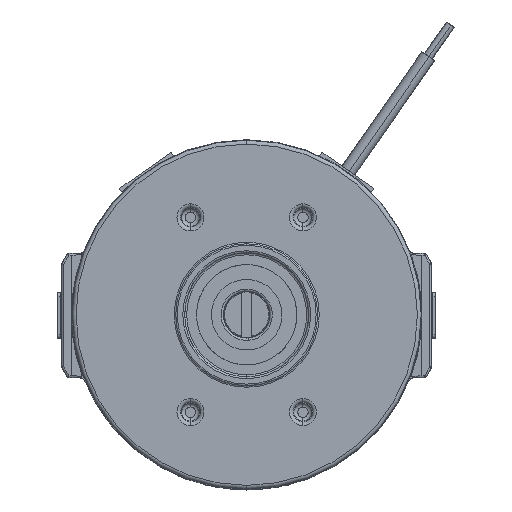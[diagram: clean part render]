
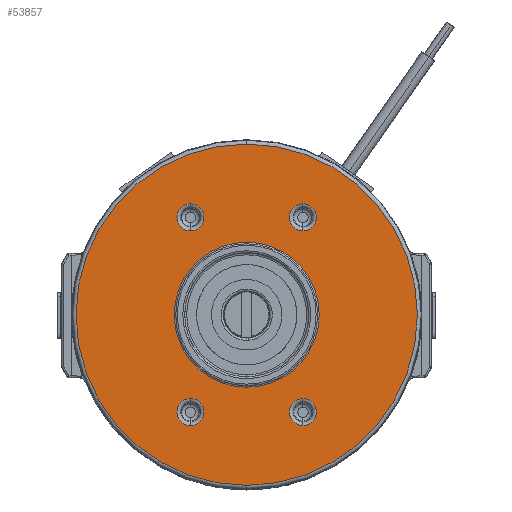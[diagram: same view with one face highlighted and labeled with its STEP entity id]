
A CAD part, top view. The second image highlights one B-rep face of the part: STEP entity #53857.
In plain terms, the highlighted planar face has unit normal (0, 0, 1).
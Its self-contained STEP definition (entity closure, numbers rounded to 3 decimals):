
#706 = VERTEX_POINT ( 'NONE', #2631 ) ;
#2194 = VERTEX_POINT ( 'NONE', #78104 ) ;
#2504 = AXIS2_PLACEMENT_3D ( 'NONE', #71942, #11484, #58650 ) ;
#2631 = CARTESIAN_POINT ( 'NONE',  ( 14.5, -21.632, 9.15 ) ) ;
#3665 = EDGE_CURVE ( 'NONE', #22772, #30019, #70294, .T. ) ;
#4205 = AXIS2_PLACEMENT_3D ( 'NONE', #17932, #70507, #57673 ) ;
#6045 = AXIS2_PLACEMENT_3D ( 'NONE', #20177, #73176, #73590 ) ;
#7078 = CARTESIAN_POINT ( 'NONE',  ( -14.5, 21.632, 9.15 ) ) ;
#8705 = VERTEX_POINT ( 'NONE', #70805 ) ;
#10449 = EDGE_CURVE ( 'NONE', #8705, #20519, #17927, .T. ) ;
#11123 = VERTEX_POINT ( 'NONE', #37116 ) ;
#11484 = DIRECTION ( 'NONE',  ( 0., 0., -1. ) ) ;
#12710 = ORIENTED_EDGE ( 'NONE', *, *, #70879, .T. ) ;
#12905 = EDGE_LOOP ( 'NONE', ( #31468, #29316 ) ) ;
#12938 = ORIENTED_EDGE ( 'NONE', *, *, #10449, .T. ) ;
#14349 = DIRECTION ( 'NONE',  ( 0., 0., -1. ) ) ;
#17023 = CARTESIAN_POINT ( 'NONE',  ( 0., 0., 9.15 ) ) ;
#17159 = AXIS2_PLACEMENT_3D ( 'NONE', #67773, #14349, #41226 ) ;
#17927 = CIRCLE ( 'NONE', #34906, 3.483 ) ;
#17932 = CARTESIAN_POINT ( 'NONE',  ( 0., 0., 9.15 ) ) ;
#18843 = AXIS2_PLACEMENT_3D ( 'NONE', #66890, #61520, #39505 ) ;
#20177 = CARTESIAN_POINT ( 'NONE',  ( 14.5, -25.115, 9.15 ) ) ;
#20422 = AXIS2_PLACEMENT_3D ( 'NONE', #62376, #55722, #22191 ) ;
#20519 = VERTEX_POINT ( 'NONE', #29677 ) ;
#20570 = EDGE_CURVE ( 'NONE', #75546, #77408, #79689, .T. ) ;
#22191 = DIRECTION ( 'NONE',  ( 0., 1., 0. ) ) ;
#22772 = VERTEX_POINT ( 'NONE', #7078 ) ;
#23566 = VERTEX_POINT ( 'NONE', #82964 ) ;
#24772 = DIRECTION ( 'NONE',  ( 0., 1., 0. ) ) ;
#24906 = CARTESIAN_POINT ( 'NONE',  ( 14.5, 25.115, 9.15 ) ) ;
#25427 = CARTESIAN_POINT ( 'NONE',  ( 0., -18.7, 9.15 ) ) ;
#25798 = ORIENTED_EDGE ( 'NONE', *, *, #3665, .T. ) ;
#25977 = FACE_BOUND ( 'NONE', #62648, .T. ) ;
#26405 = FACE_BOUND ( 'NONE', #12905, .T. ) ;
#28023 = ORIENTED_EDGE ( 'NONE', *, *, #48752, .T. ) ;
#29316 = ORIENTED_EDGE ( 'NONE', *, *, #82207, .T. ) ;
#29637 = CIRCLE ( 'NONE', #78923, 3.483 ) ;
#29677 = CARTESIAN_POINT ( 'NONE',  ( 14.5, 28.597, 9.15 ) ) ;
#30019 = VERTEX_POINT ( 'NONE', #54530 ) ;
#30260 = DIRECTION ( 'NONE',  ( 0., 1., 0. ) ) ;
#30306 = CARTESIAN_POINT ( 'NONE',  ( 0., 18.7, 9.15 ) ) ;
#30845 = CARTESIAN_POINT ( 'NONE',  ( -14.5, 25.115, 9.15 ) ) ;
#31418 = EDGE_CURVE ( 'NONE', #11123, #2194, #86568, .T. ) ;
#31468 = ORIENTED_EDGE ( 'NONE', *, *, #40761, .T. ) ;
#33181 = EDGE_LOOP ( 'NONE', ( #12710, #85163 ) ) ;
#33263 = DIRECTION ( 'NONE',  ( 0., 0., -1. ) ) ;
#33407 = CARTESIAN_POINT ( 'NONE',  ( 0., 0., 9.15 ) ) ;
#34213 = ORIENTED_EDGE ( 'NONE', *, *, #43240, .T. ) ;
#34906 = AXIS2_PLACEMENT_3D ( 'NONE', #24906, #65515, #30260 ) ;
#35015 = EDGE_CURVE ( 'NONE', #54953, #52247, #55203, .T. ) ;
#37116 = CARTESIAN_POINT ( 'NONE',  ( 0., 44.017, 9.15 ) ) ;
#38739 = CARTESIAN_POINT ( 'NONE',  ( 0., 0., 9.15 ) ) ;
#39505 = DIRECTION ( 'NONE',  ( 0., 1., 0. ) ) ;
#40501 = CIRCLE ( 'NONE', #2504, 3.483 ) ;
#40717 = CIRCLE ( 'NONE', #4205, 44.017 ) ;
#40761 = EDGE_CURVE ( 'NONE', #706, #23566, #63910, .T. ) ;
#41226 = DIRECTION ( 'NONE',  ( 0., 1., 0. ) ) ;
#42009 = ORIENTED_EDGE ( 'NONE', *, *, #53328, .T. ) ;
#43240 = EDGE_CURVE ( 'NONE', #30019, #22772, #40501, .T. ) ;
#43986 = CIRCLE ( 'NONE', #6045, 3.483 ) ;
#45621 = CIRCLE ( 'NONE', #54167, 18.7 ) ;
#45782 = FACE_BOUND ( 'NONE', #47301, .T. ) ;
#47301 = EDGE_LOOP ( 'NONE', ( #84846, #28023 ) ) ;
#48494 = AXIS2_PLACEMENT_3D ( 'NONE', #33407, #66090, #80972 ) ;
#48752 = EDGE_CURVE ( 'NONE', #77408, #75546, #61323, .T. ) ;
#52247 = VERTEX_POINT ( 'NONE', #30306 ) ;
#52427 = DIRECTION ( 'NONE',  ( 0., 1., 0. ) ) ;
#53328 = EDGE_CURVE ( 'NONE', #20519, #8705, #29637, .T. ) ;
#53775 = PLANE ( 'NONE',  #76203 ) ;
#53857 = ADVANCED_FACE ( 'NONE', ( #86398, #79325, #72741, #45782, #26405, #25977 ), #53775, .T. ) ;
#54167 = AXIS2_PLACEMENT_3D ( 'NONE', #38739, #68180, #75171 ) ;
#54519 = EDGE_LOOP ( 'NONE', ( #85019, #82897 ) ) ;
#54530 = CARTESIAN_POINT ( 'NONE',  ( -14.5, 28.597, 9.15 ) ) ;
#54953 = VERTEX_POINT ( 'NONE', #25427 ) ;
#55203 = CIRCLE ( 'NONE', #17159, 18.7 ) ;
#55722 = DIRECTION ( 'NONE',  ( 0., 0., -1. ) ) ;
#57455 = CARTESIAN_POINT ( 'NONE',  ( -14.5, -21.632, 9.15 ) ) ;
#57673 = DIRECTION ( 'NONE',  ( 0., 1., 0. ) ) ;
#58619 = AXIS2_PLACEMENT_3D ( 'NONE', #84318, #86098, #24772 ) ;
#58650 = DIRECTION ( 'NONE',  ( 0., 1., 0. ) ) ;
#58884 = DIRECTION ( 'NONE',  ( 0., 0., 1. ) ) ;
#59184 = EDGE_LOOP ( 'NONE', ( #34213, #25798 ) ) ;
#60146 = DIRECTION ( 'NONE',  ( 0., 1., 0. ) ) ;
#61323 = CIRCLE ( 'NONE', #20422, 3.483 ) ;
#61520 = DIRECTION ( 'NONE',  ( 0., 0., -1. ) ) ;
#62376 = CARTESIAN_POINT ( 'NONE',  ( -14.5, -25.115, 9.15 ) ) ;
#62648 = EDGE_LOOP ( 'NONE', ( #42009, #12938 ) ) ;
#63256 = EDGE_CURVE ( 'NONE', #2194, #11123, #40717, .T. ) ;
#63910 = CIRCLE ( 'NONE', #18843, 3.483 ) ;
#65515 = DIRECTION ( 'NONE',  ( 0., 0., -1. ) ) ;
#66090 = DIRECTION ( 'NONE',  ( 0., 0., 1. ) ) ;
#66890 = CARTESIAN_POINT ( 'NONE',  ( 14.5, -25.115, 9.15 ) ) ;
#67773 = CARTESIAN_POINT ( 'NONE',  ( 0., 0., 9.15 ) ) ;
#68180 = DIRECTION ( 'NONE',  ( 0., 0., -1. ) ) ;
#70294 = CIRCLE ( 'NONE', #82847, 3.483 ) ;
#70507 = DIRECTION ( 'NONE',  ( 0., 0., 1. ) ) ;
#70805 = CARTESIAN_POINT ( 'NONE',  ( 14.5, 21.632, 9.15 ) ) ;
#70879 = EDGE_CURVE ( 'NONE', #52247, #54953, #45621, .T. ) ;
#71942 = CARTESIAN_POINT ( 'NONE',  ( -14.5, 25.115, 9.15 ) ) ;
#72741 = FACE_BOUND ( 'NONE', #59184, .T. ) ;
#73176 = DIRECTION ( 'NONE',  ( 0., 0., -1. ) ) ;
#73590 = DIRECTION ( 'NONE',  ( 0., 1., 0. ) ) ;
#75171 = DIRECTION ( 'NONE',  ( 0., 1., 0. ) ) ;
#75546 = VERTEX_POINT ( 'NONE', #57455 ) ;
#76203 = AXIS2_PLACEMENT_3D ( 'NONE', #17023, #58884, #77910 ) ;
#77408 = VERTEX_POINT ( 'NONE', #79698 ) ;
#77910 = DIRECTION ( 'NONE',  ( 0., 1., 0. ) ) ;
#78104 = CARTESIAN_POINT ( 'NONE',  ( 0., -44.017, 9.15 ) ) ;
#78923 = AXIS2_PLACEMENT_3D ( 'NONE', #80826, #33263, #60146 ) ;
#79279 = DIRECTION ( 'NONE',  ( 0., 0., -1. ) ) ;
#79325 = FACE_OUTER_BOUND ( 'NONE', #54519, .T. ) ;
#79689 = CIRCLE ( 'NONE', #58619, 3.483 ) ;
#79698 = CARTESIAN_POINT ( 'NONE',  ( -14.5, -28.597, 9.15 ) ) ;
#80826 = CARTESIAN_POINT ( 'NONE',  ( 14.5, 25.115, 9.15 ) ) ;
#80972 = DIRECTION ( 'NONE',  ( 0., 1., 0. ) ) ;
#82207 = EDGE_CURVE ( 'NONE', #23566, #706, #43986, .T. ) ;
#82847 = AXIS2_PLACEMENT_3D ( 'NONE', #30845, #79279, #52427 ) ;
#82897 = ORIENTED_EDGE ( 'NONE', *, *, #63256, .T. ) ;
#82964 = CARTESIAN_POINT ( 'NONE',  ( 14.5, -28.597, 9.15 ) ) ;
#84318 = CARTESIAN_POINT ( 'NONE',  ( -14.5, -25.115, 9.15 ) ) ;
#84846 = ORIENTED_EDGE ( 'NONE', *, *, #20570, .T. ) ;
#85019 = ORIENTED_EDGE ( 'NONE', *, *, #31418, .T. ) ;
#85163 = ORIENTED_EDGE ( 'NONE', *, *, #35015, .T. ) ;
#86098 = DIRECTION ( 'NONE',  ( 0., 0., -1. ) ) ;
#86398 = FACE_BOUND ( 'NONE', #33181, .T. ) ;
#86568 = CIRCLE ( 'NONE', #48494, 44.017 ) ;
